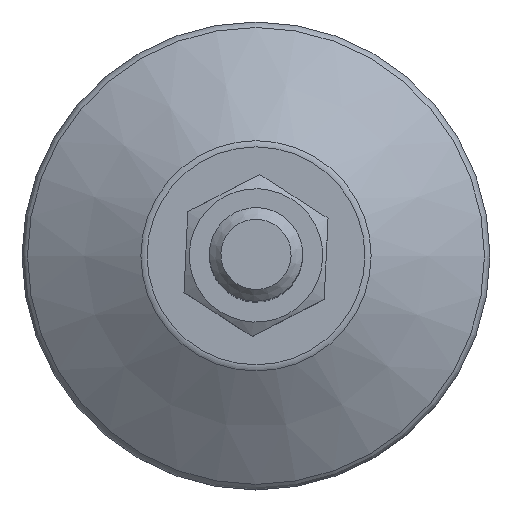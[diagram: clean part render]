
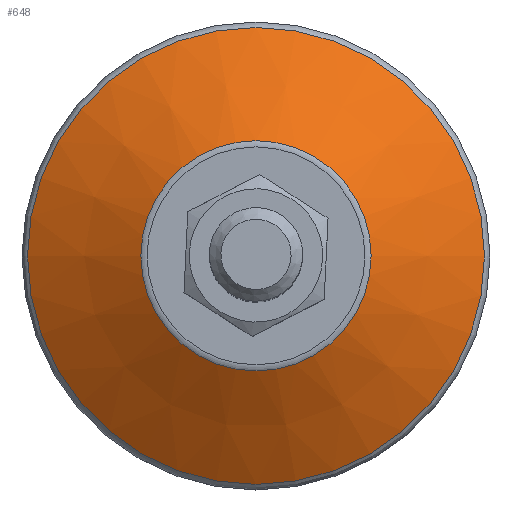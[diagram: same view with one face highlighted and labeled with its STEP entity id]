
A CAD part, top view. The second image highlights one B-rep face of the part: STEP entity #648.
In plain terms, the highlighted conical face has half-angle 58 degrees and reference radius 29.371 mm.
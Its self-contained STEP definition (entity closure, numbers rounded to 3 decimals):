
#648=ADVANCED_FACE('',(#2299,#2301),#2303,.T.);
#2299=FACE_BOUND('',#2300,.T.);
#2300=EDGE_LOOP('',(#3549,#3550));
#2301=FACE_BOUND('',#2302,.T.);
#2302=EDGE_LOOP('',(#3551,#3552));
#2303=CONICAL_SURFACE('',#2304,29.371,1.012);
#2304=AXIS2_PLACEMENT_3D('',#2305,#2306,#2307);
#2305=CARTESIAN_POINT('',(0.,0.,11.642));
#2306=DIRECTION('',(0.,0.,-1.));
#2307=DIRECTION('',(1.,0.,0.));
#3549=ORIENTED_EDGE('',*,*,#4343,.T.);
#3550=ORIENTED_EDGE('',*,*,#4344,.T.);
#3551=ORIENTED_EDGE('',*,*,#4342,.F.);
#3552=ORIENTED_EDGE('',*,*,#4341,.F.);
#4341=EDGE_CURVE('',#4852,#4853,#4854,.T.);
#4342=EDGE_CURVE('',#4853,#4852,#4855,.T.);
#4343=EDGE_CURVE('',#4856,#4857,#4858,.T.);
#4344=EDGE_CURVE('',#4857,#4856,#4859,.T.);
#4852=VERTEX_POINT('',#6730);
#4853=VERTEX_POINT('',#6731);
#4854=CIRCLE('',#6732,19.682);
#4855=CIRCLE('',#6736,19.682);
#4856=VERTEX_POINT('',#6740);
#4857=VERTEX_POINT('',#6741);
#4858=CIRCLE('',#6742,39.06);
#4859=CIRCLE('',#6746,39.06);
#6730=CARTESIAN_POINT('',(19.682,0.,17.696));
#6731=CARTESIAN_POINT('',(-19.682,0.,17.696));
#6732=AXIS2_PLACEMENT_3D('',#6733,#6734,#6735);
#6733=CARTESIAN_POINT('',(0.,0.,17.696));
#6734=DIRECTION('',(0.,0.,1.));
#6735=DIRECTION('',(1.,0.,0.));
#6736=AXIS2_PLACEMENT_3D('',#6737,#6738,#6739);
#6737=CARTESIAN_POINT('',(0.,0.,17.696));
#6738=DIRECTION('',(0.,0.,1.));
#6739=DIRECTION('',(-1.,0.,0.));
#6740=CARTESIAN_POINT('',(39.06,0.,5.587));
#6741=CARTESIAN_POINT('',(-39.06,0.,5.587));
#6742=AXIS2_PLACEMENT_3D('',#6743,#6744,#6745);
#6743=CARTESIAN_POINT('',(0.,0.,5.587));
#6744=DIRECTION('',(0.,0.,1.));
#6745=DIRECTION('',(1.,0.,0.));
#6746=AXIS2_PLACEMENT_3D('',#6747,#6748,#6749);
#6747=CARTESIAN_POINT('',(0.,0.,5.587));
#6748=DIRECTION('',(0.,0.,1.));
#6749=DIRECTION('',(-1.,0.,0.));
